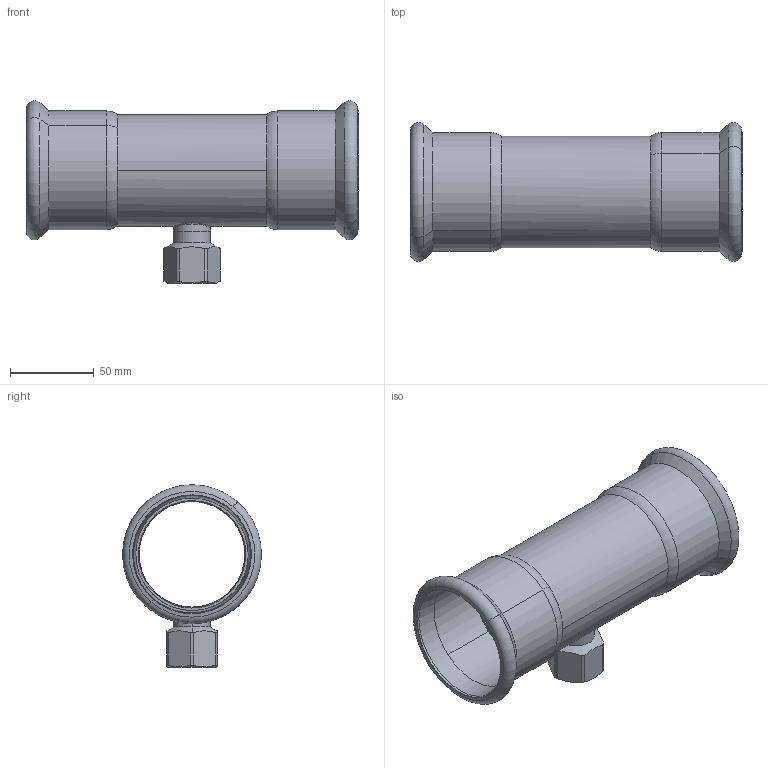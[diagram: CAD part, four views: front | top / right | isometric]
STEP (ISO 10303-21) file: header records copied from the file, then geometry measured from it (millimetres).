
FILE_DESCRIPTION(('CoCreate Modeling STEP Export'),'2;1');
FILE_NAME('C1418 67xRp3-4x67.stp','2014-10-23T16:01:45',(''),(''),'CoCreate Modeling STEP processor for AP214 (Solid Model)','CoCreate Modeling 17.00A 17-Jun-2010 (C) Parametric Technology GmbH','');
FILE_SCHEMA(('AUTOMOTIVE_DESIGN { 1 0 10303 214 1 1 1 1 }'));
Length unit declared in the file: millimetre
Products named in the file (2): TSTUK_67xRp3-4x67mm
Assembly tree (1 placements, depth 2):
  TSTUK_67xRp3-4x67mm
    TSTUK_67xRp3-4x67mm
Bounding box: 198.08 x 82.91 x 108.81 mm (x, y, z)
Volume: 108573.9 mm3; surface area: 94401.9 mm2
Topology: 1 solids, 1 shells, 90 faces, 224 edges, 140 vertices
Faces by surface type: cylinder 34, cone 28, torus 12, plane 12, bspline 4
Entity records: 5819 total; most frequent: CARTESIAN_POINT 3982, ORIENTED_EDGE 448, DIRECTION 300, EDGE_CURVE 224, VERTEX_POINT 140, AXIS2_PLACEMENT_3D 116, EDGE_LOOP 98, FACE_OUTER_BOUND 90
